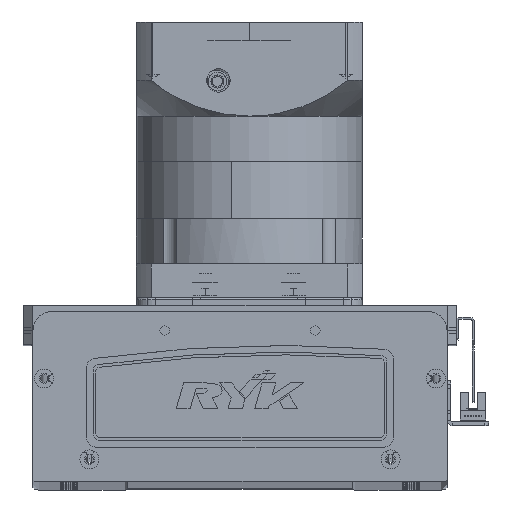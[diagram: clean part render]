
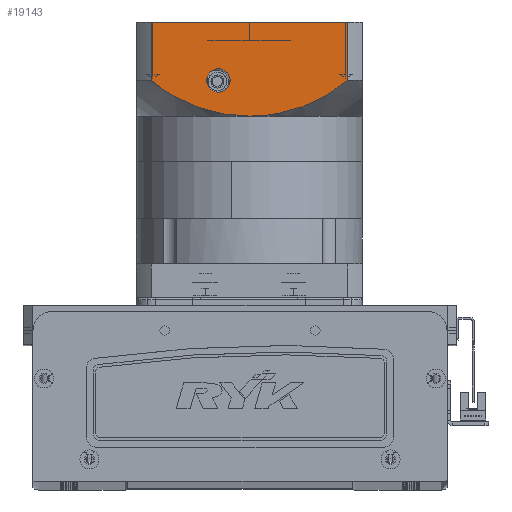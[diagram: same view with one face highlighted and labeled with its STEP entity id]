
A CAD part, top view. The second image highlights one B-rep face of the part: STEP entity #19143.
In plain terms, the highlighted planar face has unit normal (0, 0, 1) as drawn and (0, -1, 0) by its records, which use the part's own axes.
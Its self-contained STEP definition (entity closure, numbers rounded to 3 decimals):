
#257 = CARTESIAN_POINT ( 'NONE',  ( 52.156, -60., -150.5 ) ) ;
#694 = CARTESIAN_POINT ( 'NONE',  ( 52.156, -60., -119.5 ) ) ;
#1793 = CARTESIAN_POINT ( 'NONE',  ( -38.51, -60., -110.207 ) ) ;
#2790 = VERTEX_POINT ( 'NONE', #61589 ) ;
#3400 = VERTEX_POINT ( 'NONE', #14491 ) ;
#3523 = CARTESIAN_POINT ( 'NONE',  ( 19.894, -60., -102.964 ) ) ;
#3795 = ORIENTED_EDGE ( 'NONE', *, *, #28499, .T. ) ;
#5944 = ORIENTED_EDGE ( 'NONE', *, *, #36452, .T. ) ;
#6742 = CARTESIAN_POINT ( 'NONE',  ( 16.5, -60., -119.5 ) ) ;
#7213 = CARTESIAN_POINT ( 'NONE',  ( -52.156, -60., -150.5 ) ) ;
#7434 = CARTESIAN_POINT ( 'NONE',  ( -48.52, -60., -116.438 ) ) ;
#7527 = B_SPLINE_CURVE_WITH_KNOTS ( 'NONE', 3,
 ( #52856, #14601, #25246, #36085, #31368, #25725, #3523, #30679, #35860, #68693, #69157, #58269, #20519, #36331, #46930, #19812, #52619, #14838 ),
 .UNSPECIFIED., .F., .F.,
 ( 4, 2, 2, 2, 2, 2, 2, 2, 4 ),
 ( 0., 0.014, 0.018, 0.021, 0.028, 0.042, 0.046, 0.05, 0.057 ),
 .UNSPECIFIED. ) ;
#7670 = CARTESIAN_POINT ( 'NONE',  ( -35.342, -60., -108.587 ) ) ;
#8072 = CARTESIAN_POINT ( 'NONE',  ( 16.5, -60., -125.75 ) ) ;
#8509 = VECTOR ( 'NONE', #60539, 1000. ) ;
#9288 = DIRECTION ( 'NONE',  ( 0., 0., -1. ) ) ;
#9336 = LINE ( 'NONE', #36637, #63469 ) ;
#10467 = VERTEX_POINT ( 'NONE', #694 ) ;
#12193 = AXIS2_PLACEMENT_3D ( 'NONE', #6742, #49270, #65615 ) ;
#12929 = VERTEX_POINT ( 'NONE', #7213 ) ;
#13312 = CARTESIAN_POINT ( 'NONE',  ( -52.156, -60., -119.5 ) ) ;
#13611 = ORIENTED_EDGE ( 'NONE', *, *, #37177, .F. ) ;
#14246 = DIRECTION ( 'NONE',  ( 0., 1., 0. ) ) ;
#14491 = CARTESIAN_POINT ( 'NONE',  ( 0., -60., -100.5 ) ) ;
#14601 = CARTESIAN_POINT ( 'NONE',  ( 4.753, -60., -100.5 ) ) ;
#14838 = CARTESIAN_POINT ( 'NONE',  ( 52.156, -60., -119.5 ) ) ;
#14898 = DIRECTION ( 'NONE',  ( 0., 0., 1. ) ) ;
#14975 = VERTEX_POINT ( 'NONE', #8072 ) ;
#16657 = B_SPLINE_CURVE_WITH_KNOTS ( 'NONE', 3,
 ( #13312, #7434, #40044, #56532, #1793, #66746, #7670, #17849, #28973, #60836, #29437, #23998, #67210, #45452, #55858, #34852, #34379, #55628 ),
 .UNSPECIFIED., .F., .F.,
 ( 4, 2, 2, 2, 2, 2, 2, 2, 4 ),
 ( 0., 0.014, 0.018, 0.021, 0.028, 0.042, 0.046, 0.05, 0.057 ),
 .UNSPECIFIED. ) ;
#17849 = CARTESIAN_POINT ( 'NONE',  ( -32.118, -60., -107.084 ) ) ;
#18707 = PLANE ( 'NONE',  #25565 ) ;
#18941 = DIRECTION ( 'NONE',  ( 1., 0., 0. ) ) ;
#19143 = ADVANCED_FACE ( 'NONE', ( #46111, #29221 ), #18707, .T. ) ;
#19812 = CARTESIAN_POINT ( 'NONE',  ( 48.457, -60., -116.522 ) ) ;
#20519 = CARTESIAN_POINT ( 'NONE',  ( 42.555, -60., -112.543 ) ) ;
#22802 = CARTESIAN_POINT ( 'NONE',  ( 52.156, -60., -150.5 ) ) ;
#23998 = CARTESIAN_POINT ( 'NONE',  ( -12.993, -60., -101.537 ) ) ;
#24437 = EDGE_CURVE ( 'NONE', #2790, #14975, #48284, .T. ) ;
#25246 = CARTESIAN_POINT ( 'NONE',  ( 9.454, -60., -100.914 ) ) ;
#25565 = AXIS2_PLACEMENT_3D ( 'NONE', #67604, #29133, #18941 ) ;
#25725 = CARTESIAN_POINT ( 'NONE',  ( 18.739, -60., -102.681 ) ) ;
#26458 = EDGE_LOOP ( 'NONE', ( #13611, #5944, #3795, #45533, #45085 ) ) ;
#26954 = EDGE_CURVE ( 'NONE', #14975, #2790, #55620, .T. ) ;
#28499 = EDGE_CURVE ( 'NONE', #45425, #10467, #48755, .T. ) ;
#28973 = CARTESIAN_POINT ( 'NONE',  ( -29.939, -60., -106.183 ) ) ;
#29133 = DIRECTION ( 'NONE',  ( 0., -1., 0. ) ) ;
#29221 = FACE_BOUND ( 'NONE', #55092, .T. ) ;
#29437 = CARTESIAN_POINT ( 'NONE',  ( -18.792, -60., -102.562 ) ) ;
#30679 = CARTESIAN_POINT ( 'NONE',  ( 23.329, -60., -103.886 ) ) ;
#31368 = CARTESIAN_POINT ( 'NONE',  ( 16.426, -60., -102.169 ) ) ;
#32288 = ORIENTED_EDGE ( 'NONE', *, *, #24437, .T. ) ;
#34379 = CARTESIAN_POINT ( 'NONE',  ( -2.376, -60., -100.5 ) ) ;
#34852 = CARTESIAN_POINT ( 'NONE',  ( -4.747, -60., -100.604 ) ) ;
#35860 = CARTESIAN_POINT ( 'NONE',  ( 25.577, -60., -104.596 ) ) ;
#36085 = CARTESIAN_POINT ( 'NONE',  ( 15.267, -60., -101.938 ) ) ;
#36331 = CARTESIAN_POINT ( 'NONE',  ( 44.553, -60., -113.817 ) ) ;
#36452 = EDGE_CURVE ( 'NONE', #12929, #45425, #64355, .T. ) ;
#36637 = CARTESIAN_POINT ( 'NONE',  ( -52.156, -60., -97.5 ) ) ;
#37177 = EDGE_CURVE ( 'NONE', #12929, #67226, #9336, .T. ) ;
#37416 = VECTOR ( 'NONE', #60330, 1000. ) ;
#38190 = ORIENTED_EDGE ( 'NONE', *, *, #26954, .T. ) ;
#38433 = EDGE_CURVE ( 'NONE', #3400, #10467, #7527, .T. ) ;
#38736 = EDGE_CURVE ( 'NONE', #67226, #3400, #16657, .T. ) ;
#40044 = CARTESIAN_POINT ( 'NONE',  ( -44.656, -60., -113.73 ) ) ;
#40958 = CARTESIAN_POINT ( 'NONE',  ( -52.156, -60., -119.5 ) ) ;
#45085 = ORIENTED_EDGE ( 'NONE', *, *, #38736, .F. ) ;
#45425 = VERTEX_POINT ( 'NONE', #257 ) ;
#45452 = CARTESIAN_POINT ( 'NONE',  ( -9.477, -60., -101.046 ) ) ;
#45533 = ORIENTED_EDGE ( 'NONE', *, *, #38433, .F. ) ;
#46111 = FACE_OUTER_BOUND ( 'NONE', #26458, .T. ) ;
#46930 = CARTESIAN_POINT ( 'NONE',  ( 45.542, -60., -114.478 ) ) ;
#48284 = CIRCLE ( 'NONE', #12193, 6.25 ) ;
#48755 = LINE ( 'NONE', #22802, #37416 ) ;
#49270 = DIRECTION ( 'NONE',  ( 0., 1., 0. ) ) ;
#52619 = CARTESIAN_POINT ( 'NONE',  ( 50.338, -60., -117.969 ) ) ;
#52856 = CARTESIAN_POINT ( 'NONE',  ( 0., -60., -100.5 ) ) ;
#55092 = EDGE_LOOP ( 'NONE', ( #38190, #32288 ) ) ;
#55620 = CIRCLE ( 'NONE', #56659, 6.25 ) ;
#55628 = CARTESIAN_POINT ( 'NONE',  ( 0., -60., -100.5 ) ) ;
#55858 = CARTESIAN_POINT ( 'NONE',  ( -8.294, -60., -100.916 ) ) ;
#56532 = CARTESIAN_POINT ( 'NONE',  ( -39.546, -60., -110.776 ) ) ;
#56659 = AXIS2_PLACEMENT_3D ( 'NONE', #67649, #14246, #9288 ) ;
#58269 = CARTESIAN_POINT ( 'NONE',  ( 41.545, -60., -111.931 ) ) ;
#60330 = DIRECTION ( 'NONE',  ( 0., 0., 1. ) ) ;
#60539 = DIRECTION ( 'NONE',  ( 1., 0., 0. ) ) ;
#60836 = CARTESIAN_POINT ( 'NONE',  ( -23.319, -60., -103.777 ) ) ;
#61589 = CARTESIAN_POINT ( 'NONE',  ( 16.5, -60., -113.25 ) ) ;
#63469 = VECTOR ( 'NONE', #14898, 1000. ) ;
#64355 = LINE ( 'NONE', #65533, #8509 ) ;
#65533 = CARTESIAN_POINT ( 'NONE',  ( -60., -60., -150.5 ) ) ;
#65615 = DIRECTION ( 'NONE',  ( 0., 0., -1. ) ) ;
#66746 = CARTESIAN_POINT ( 'NONE',  ( -36.409, -60., -109.113 ) ) ;
#67210 = CARTESIAN_POINT ( 'NONE',  ( -11.825, -60., -101.356 ) ) ;
#67226 = VERTEX_POINT ( 'NONE', #40958 ) ;
#67604 = CARTESIAN_POINT ( 'NONE',  ( -60., -60., -150.5 ) ) ;
#67649 = CARTESIAN_POINT ( 'NONE',  ( 16.5, -60., -119.5 ) ) ;
#68693 = CARTESIAN_POINT ( 'NONE',  ( 32.196, -60., -107.007 ) ) ;
#69157 = CARTESIAN_POINT ( 'NONE',  ( 36.444, -60., -108.986 ) ) ;
